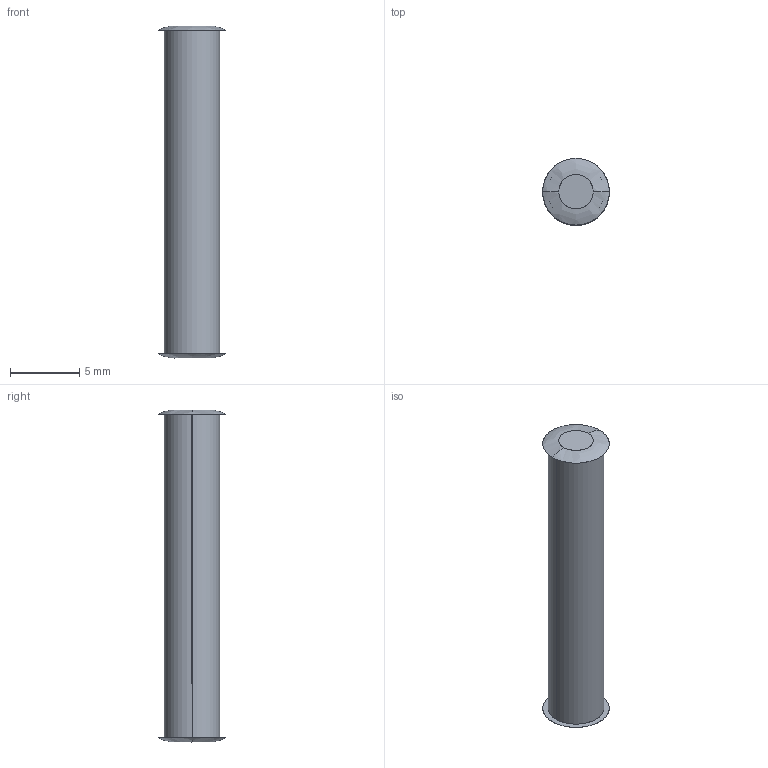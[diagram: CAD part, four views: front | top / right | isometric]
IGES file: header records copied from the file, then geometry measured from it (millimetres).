
Start section: SolidWorks IGES FILE using analytic representation for surfaces
Global section: file name: C:\WINNT\Profiles\cbrechard\Bureau\GE 44\27.040.00.IGS; native system: SolidWorks 2001Plus by SolidWorks Corporation; preprocessor: Version 5.3; author: CBRECHARD; date: 050125.133143; units: millimetre
Bounding box: 4.8 x 4.8 x 23.9 mm (x, y, z)
Surface area: 341.4 mm2 (no closed solid volume)
Topology: 0 solids, 0 shells, 10 faces, 216 edges, 216 vertices
Faces by surface type: bspline 8, revolution 2
